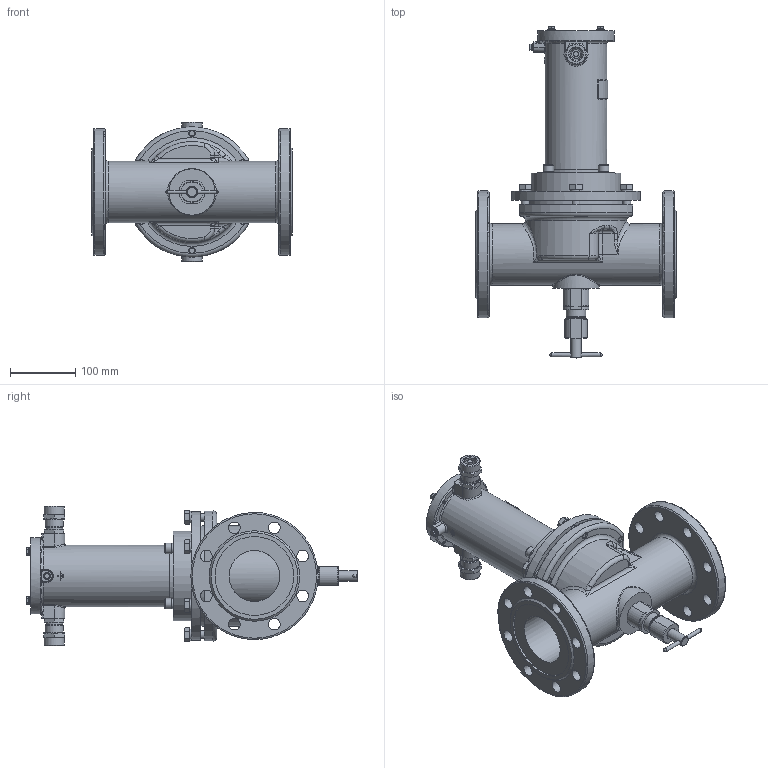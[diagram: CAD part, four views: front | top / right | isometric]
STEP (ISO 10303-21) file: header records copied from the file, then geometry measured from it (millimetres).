
FILE_DESCRIPTION(('STEP AP203'), '1');
FILE_NAME('ÑÅÍÑ-ÏÐ DN80PN25.stp', '2018-10-09T07:54:40', ('Îðëîâ Å.Â.'), ('ÎÎÎ ÍÏÏ Ñåíñîð'), 'ASCON STEP Converter 1.3', 'Kompas 3D', '');
FILE_SCHEMA(('CONFIG_CONTROL_DESIGN','SUPPORT_RESOURCE_SCHEMA'));
Length unit declared in the file: millimetre
Products named in the file (1): 10
Bounding box: 308 x 509.7 x 214 mm (x, y, z)
Volume: 3410172.2 mm3; surface area: 743861.1 mm2
Topology: 3 solids, 23 shells, 2128 faces, 5623 edges, 3631 vertices
Faces by surface type: cylinder 1039, plane 810, cone 150, bspline 56, torus 49, extrusion 16, sphere 8
Full cylindrical faces by diameter (mm): 3.5 x2, 4.134 x1, 4.917 x4, 5 x1, 6 x9, 6.5 x4, 8 x8, 8.2 x1, 8.376 x4, 10 x5, 10.106 x6, 11 x5, 12 x10, 13 x8, 16 x6, 17 x2, 18 x17, 18.632 x2, 20 x3, 22 x2, 22.376 x2, 23 x1, 23.5 x2, 24 x2, 24.5 x2, 26 x4, 26.376 x2, 27.8 x1, 28 x3, 28.5 x2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
Entity records: 84915 total; most frequent: CARTESIAN_POINT 31267, DIRECTION 11545, ORIENTED_EDGE 11184, EDGE_CURVE 5592, AXIS2_PLACEMENT_3D 4449, VERTEX_POINT 3631, VECTOR 2647, LINE 2631
